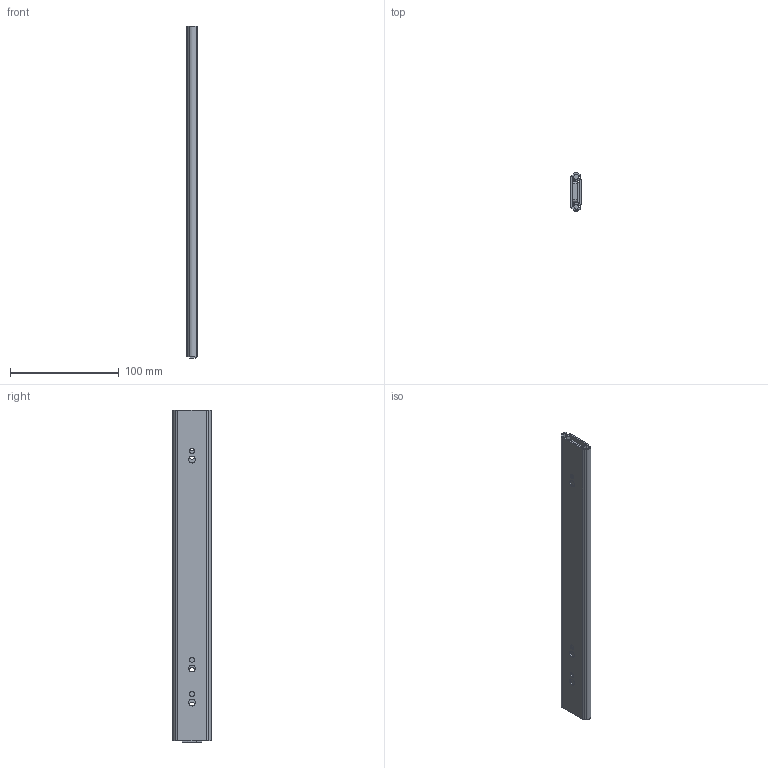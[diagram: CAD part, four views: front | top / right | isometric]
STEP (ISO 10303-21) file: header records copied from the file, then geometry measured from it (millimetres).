
FILE_DESCRIPTION(/* description */ (''),/* implementation_level */ '2;1');
FILE_NAME(/* name */ '\\NAS\db20\L2-300\DR_L2-300.stp',/* time_stamp */ '2017-09-28T10:41:22+09:00',/* author */ ('user'),/* organization */ (''),/* preprocessor_version */ 'ST-DEVELOPER v15.6',/* originating_system */ 'Autodesk Inventor 2015',/* authorisation */ '');
FILE_SCHEMA (('AUTOMOTIVE_DESIGN { 1 0 10303 214 3 1 1 }'));
Length unit declared in the file: millimetre
Products named in the file (1): DR_L2-300
Bounding box: 9.55 x 35.3 x 306 mm (x, y, z)
Volume: 42209.2 mm3; surface area: 60073.5 mm2
Topology: 3 solids, 3 shells, 115 faces, 322 edges, 214 vertices
Faces by surface type: plane 63, cylinder 52
Full cylindrical faces by diameter (mm): 4.5 x12, 6.3 x3
Entity records: 3761 total; most frequent: CARTESIAN_POINT 647, DIRECTION 641, ORIENTED_EDGE 614, EDGE_CURVE 307, AXIS2_PLACEMENT_3D 220, VERTEX_POINT 214, LINE 201, VECTOR 201
